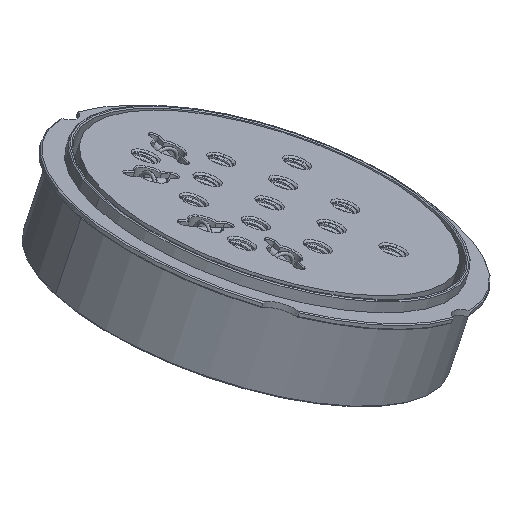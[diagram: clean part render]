
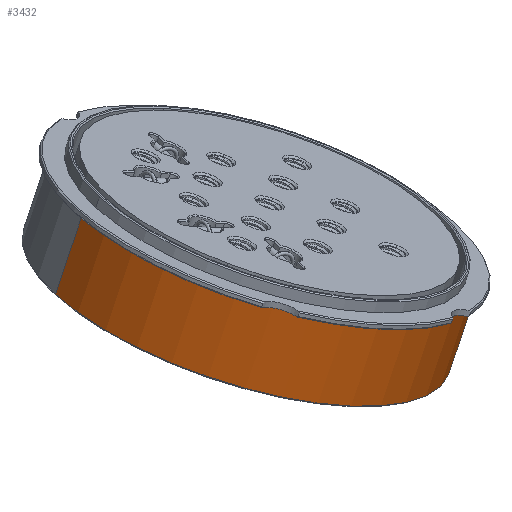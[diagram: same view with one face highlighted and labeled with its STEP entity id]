
A CAD part, left-side view. The second image highlights one B-rep face of the part: STEP entity #3432.
In plain terms, the highlighted cylindrical face has radius 33.75 mm (diameter 67.5 mm), a partial arc.
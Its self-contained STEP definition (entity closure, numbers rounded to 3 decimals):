
#647=CARTESIAN_POINT('',(0.,0.,14.));
#648=DIRECTION('',(0.,0.,1.));
#649=DIRECTION('',(0.,1.,0.));
#650=AXIS2_PLACEMENT_3D('',#647,#648,#649);
#697=CARTESIAN_POINT('',(0.,0.,0.2));
#698=DIRECTION('',(0.,0.,-1.));
#699=DIRECTION('',(0.,-1.,0.));
#700=AXIS2_PLACEMENT_3D('',#697,#698,#699);
#702=DIRECTION('',(0.,0.,1.));
#703=VECTOR('',#702,13.8);
#704=CARTESIAN_POINT('',(0.,33.75,0.2));
#705=LINE('',#704,#703);
#719=DIRECTION('',(0.,0.,1.));
#720=VECTOR('',#719,13.8);
#721=CARTESIAN_POINT('',(0.,-33.75,
0.2));
#722=LINE('',#721,#720);
#2430=CARTESIAN_POINT('',(0.,33.75,14.));
#2431=CARTESIAN_POINT('',(0.,-33.75,14.));
#2432=VERTEX_POINT('',#2430);
#2433=VERTEX_POINT('',#2431);
#2494=CARTESIAN_POINT('',(0.,-33.75,0.2));
#2495=CARTESIAN_POINT('',(0.,33.75,0.2));
#2496=VERTEX_POINT('',#2494);
#2497=VERTEX_POINT('',#2495);
#3418=CARTESIAN_POINT('',(0.,0.,0.));
#3419=DIRECTION('',(0.,0.,-1.));
#3420=DIRECTION('',(0.,1.,0.));
#3421=AXIS2_PLACEMENT_3D('',#3418,#3419,#3420);
#3422=CYLINDRICAL_SURFACE('',#3421,33.75);
#3424=ORIENTED_EDGE('',*,*,#3423,.T.);
#3426=ORIENTED_EDGE('',*,*,#3425,.T.);
#3427=ORIENTED_EDGE('',*,*,#3411,.T.);
#3429=ORIENTED_EDGE('',*,*,#3428,.F.);
#3430=EDGE_LOOP('',(#3424,#3426,#3427,#3429));
#3431=FACE_OUTER_BOUND('',#3430,.F.);
#3432=ADVANCED_FACE('',(#3431),#3422,.T.);
#651=CIRCLE('',#650,33.75);
#701=CIRCLE('',#700,33.75);
#3411=EDGE_CURVE('',#2432,#2433,#651,.T.);
#3423=EDGE_CURVE('',#2496,#2497,#701,.T.);
#3425=EDGE_CURVE('',#2497,#2432,#705,.T.);
#3428=EDGE_CURVE('',#2496,#2433,#722,.T.);
